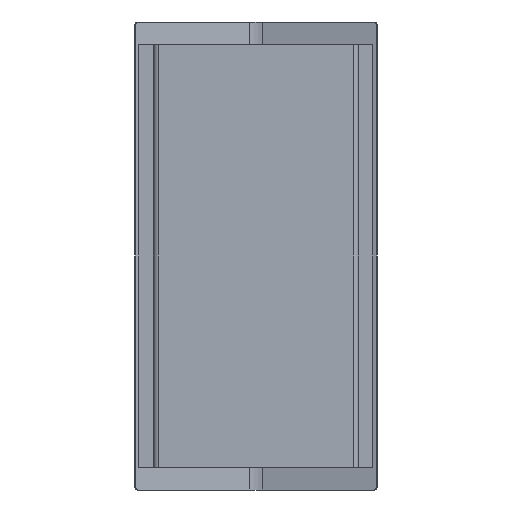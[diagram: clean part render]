
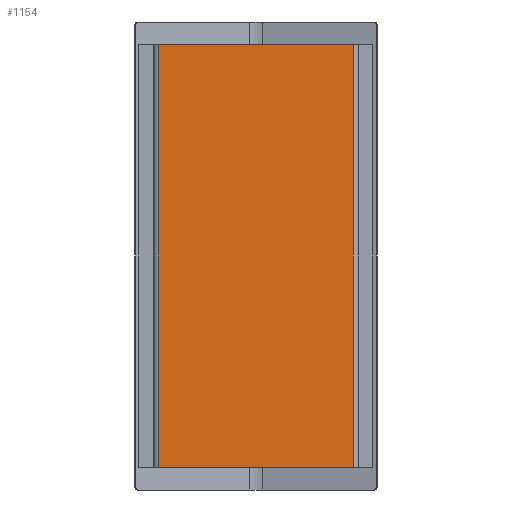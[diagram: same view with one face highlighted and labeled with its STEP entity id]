
A CAD part, front view. The second image highlights one B-rep face of the part: STEP entity #1154.
In plain terms, the highlighted planar face has unit normal (0, -1, 0).
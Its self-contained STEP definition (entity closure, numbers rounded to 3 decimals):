
#882=CARTESIAN_POINT('',(-62.504,-47.731,135.5));
#883=VERTEX_POINT('',#882);
#891=CARTESIAN_POINT('',(62.496,-47.731,135.5));
#892=VERTEX_POINT('',#891);
#893=CARTESIAN_POINT('',(-62.504,-47.731,135.5));
#894=DIRECTION('',(1.0,0.0,0.0));
#895=VECTOR('',#894,125.0);
#896=LINE('',#893,#895);
#897=EDGE_CURVE('',#883,#892,#896,.T.);
#971=CARTESIAN_POINT('',(-62.504,-47.731,-135.5));
#972=VERTEX_POINT('',#971);
#973=CARTESIAN_POINT('',(62.496,-47.731,-135.5));
#974=VERTEX_POINT('',#973);
#975=CARTESIAN_POINT('',(-62.504,-47.731,-135.5));
#976=DIRECTION('',(1.0,0.0,0.0));
#977=VECTOR('',#976,125.0);
#978=LINE('',#975,#977);
#979=EDGE_CURVE('',#972,#974,#978,.T.);
#1133=CARTESIAN_POINT('',(-65.504,-47.731,-135.5));
#1134=DIRECTION('',(0.0,-1.0,0.0));
#1135=DIRECTION('',(0.0,0.0,-1.0));
#1136=AXIS2_PLACEMENT_3D('',#1133,#1134,#1135);
#1137=PLANE('',#1136);
#1138=ORIENTED_EDGE('',*,*,#897,.F.);
#1139=CARTESIAN_POINT('',(-62.504,-47.731,135.5));
#1140=DIRECTION('',(0.0,0.0,-1.0));
#1141=VECTOR('',#1140,271.0);
#1142=LINE('',#1139,#1141);
#1143=EDGE_CURVE('',#883,#972,#1142,.T.);
#1144=ORIENTED_EDGE('',*,*,#1143,.T.);
#1145=ORIENTED_EDGE('',*,*,#979,.T.);
#1146=CARTESIAN_POINT('',(62.496,-47.731,-135.5));
#1147=DIRECTION('',(0.0,0.0,1.0));
#1148=VECTOR('',#1147,271.0);
#1149=LINE('',#1146,#1148);
#1150=EDGE_CURVE('',#974,#892,#1149,.T.);
#1151=ORIENTED_EDGE('',*,*,#1150,.T.);
#1152=EDGE_LOOP('',(#1138,#1144,#1145,#1151));
#1153=FACE_OUTER_BOUND('',#1152,.T.);
#1154=ADVANCED_FACE('',(#1153),#1137,.T.);
